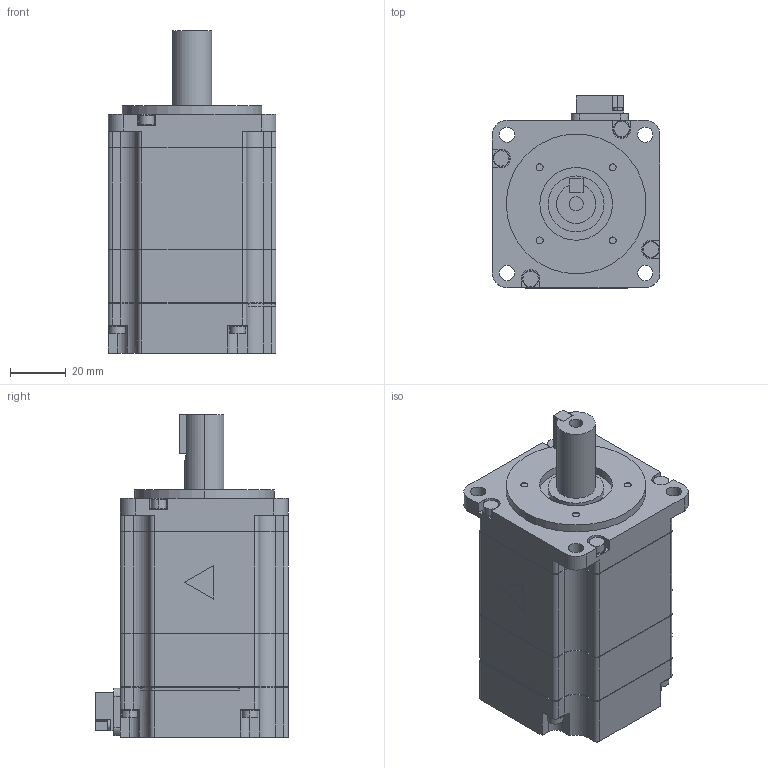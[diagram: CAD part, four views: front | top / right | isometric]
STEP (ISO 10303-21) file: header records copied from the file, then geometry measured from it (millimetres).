
FILE_DESCRIPTION (( 'STEP AP203' ), '1' );
FILE_NAME ('sgm7a_04a_a61.STEP', '2015-12-21T22:34:34', ( '匠エンジニアリング山之内' ), ( 'TAKUMI-Engniaring' ), 'SwSTEP 2.0', 'SolidWorks 2006303', '' );
FILE_SCHEMA (( 'CONFIG_CONTROL_DESIGN' ));
Length unit declared in the file: millimetre
Products named in the file (3): sgm7a_04a_a61_base; sgm7a_04a_a61_key; sgm7a_04a_a61
Assembly tree (2 placements, depth 2):
  sgm7a_04a_a61
    sgm7a_04a_a61_base
    sgm7a_04a_a61_key
Bounding box: 60.1 x 68.8 x 115.6 mm (x, y, z)
Volume: 282283.5 mm3; surface area: 32546.6 mm2
Topology: 2 solids, 2 shells, 424 faces, 1111 edges, 738 vertices
Faces by surface type: plane 235, cylinder 189
Entity records: 13497 total; most frequent: DIRECTION 2352, CARTESIAN_POINT 2324, ORIENTED_EDGE 2222, EDGE_CURVE 1111, AXIS2_PLACEMENT_3D 816, VERTEX_POINT 738, VECTOR 720, LINE 720
